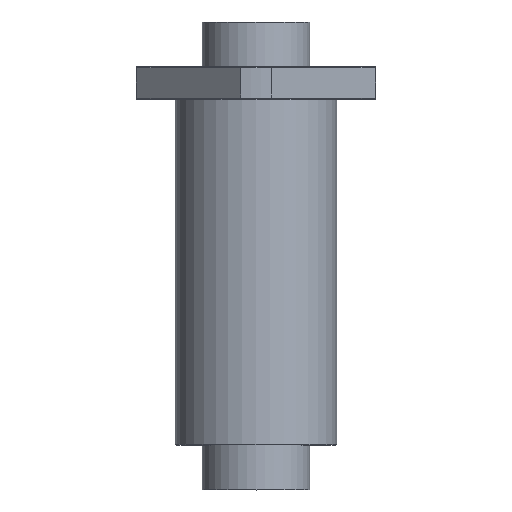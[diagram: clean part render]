
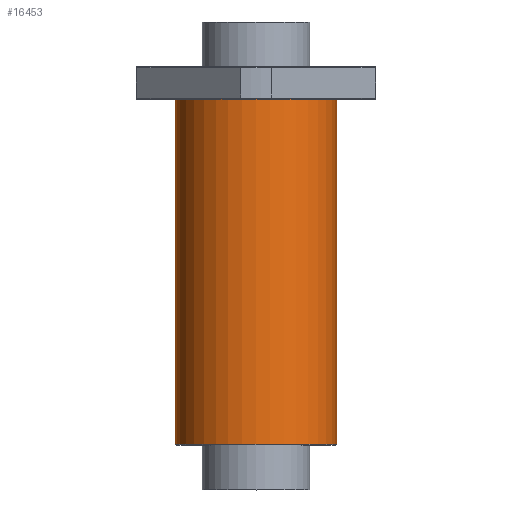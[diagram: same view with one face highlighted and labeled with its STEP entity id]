
A CAD part, top view. The second image highlights one B-rep face of the part: STEP entity #16453.
In plain terms, the highlighted cylindrical face has radius 45 mm (diameter 90 mm), a full revolution.
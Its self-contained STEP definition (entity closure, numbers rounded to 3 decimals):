
#2231=CYLINDRICAL_SURFACE('',#16809,45.);
#2341=CIRCLE('',#16561,45.);
#2342=CIRCLE('',#16562,45.);
#2369=CIRCLE('',#16810,45.);
#2370=CIRCLE('',#16811,45.);
#2371=CIRCLE('',#16812,45.);
#3251=FACE_OUTER_BOUND('',#4181,.T.);
#4181=EDGE_LOOP('',(#15313,#15314,#15315,#15316,#15317,#15318,#15319));
#5315=LINE('',#29687,#6443);
#6443=VECTOR('',#18617,45.);
#6521=VERTEX_POINT('',#18874);
#6522=VERTEX_POINT('',#18875);
#8072=VERTEX_POINT('',#29682);
#8073=VERTEX_POINT('',#29683);
#8074=VERTEX_POINT('',#29685);
#8173=EDGE_CURVE('',#6521,#6522,#2341,.T.);
#8174=EDGE_CURVE('',#6522,#6521,#2342,.T.);
#10493=EDGE_CURVE('',#8072,#8073,#2369,.T.);
#10494=EDGE_CURVE('',#8074,#8072,#2370,.T.);
#10495=EDGE_CURVE('',#8074,#6522,#5315,.T.);
#10496=EDGE_CURVE('',#8073,#8074,#2371,.T.);
#15313=ORIENTED_EDGE('',*,*,#10493,.F.);
#15314=ORIENTED_EDGE('',*,*,#10494,.F.);
#15315=ORIENTED_EDGE('',*,*,#10495,.T.);
#15316=ORIENTED_EDGE('',*,*,#8174,.T.);
#15317=ORIENTED_EDGE('',*,*,#8173,.T.);
#15318=ORIENTED_EDGE('',*,*,#10495,.F.);
#15319=ORIENTED_EDGE('',*,*,#10496,.F.);
#16453=ADVANCED_FACE('',(#3251),#2231,.T.);
#16561=AXIS2_PLACEMENT_3D('',#18876,#17023,#17024);
#16562=AXIS2_PLACEMENT_3D('',#18877,#17025,#17026);
#16809=AXIS2_PLACEMENT_3D('',#29681,#18611,#18612);
#16810=AXIS2_PLACEMENT_3D('',#29684,#18613,#18614);
#16811=AXIS2_PLACEMENT_3D('',#29686,#18615,#18616);
#16812=AXIS2_PLACEMENT_3D('',#29688,#18618,#18619);
#17023=DIRECTION('center_axis',(0.,-1.,0.));
#17024=DIRECTION('ref_axis',(1.,0.,0.));
#17025=DIRECTION('center_axis',(0.,-1.,0.));
#17026=DIRECTION('ref_axis',(1.,0.,0.));
#18611=DIRECTION('center_axis',(0.,-1.,0.));
#18612=DIRECTION('ref_axis',(1.,0.,0.));
#18613=DIRECTION('center_axis',(0.,-1.,0.));
#18614=DIRECTION('ref_axis',(1.,0.,0.));
#18615=DIRECTION('center_axis',(0.,-1.,0.));
#18616=DIRECTION('ref_axis',(1.,0.,0.));
#18617=DIRECTION('',(0.,1.,0.));
#18618=DIRECTION('center_axis',(0.,-1.,0.));
#18619=DIRECTION('ref_axis',(1.,0.,0.));
#18874=CARTESIAN_POINT('',(45.,87.5,0.));
#18875=CARTESIAN_POINT('',(-45.,87.5,0.));
#18876=CARTESIAN_POINT('Origin',(0.,87.5,0.));
#18877=CARTESIAN_POINT('Origin',(0.,87.5,0.));
#29681=CARTESIAN_POINT('Origin',(0.,0.,0.));
#29682=CARTESIAN_POINT('',(45.,-105.,0.));
#29683=CARTESIAN_POINT('',(0.,-105.,45.));
#29684=CARTESIAN_POINT('Origin',(0.,-105.,0.));
#29685=CARTESIAN_POINT('',(-45.,-105.,0.));
#29686=CARTESIAN_POINT('Origin',(0.,-105.,0.));
#29687=CARTESIAN_POINT('',(-45.,0.,0.));
#29688=CARTESIAN_POINT('Origin',(0.,-105.,0.));
